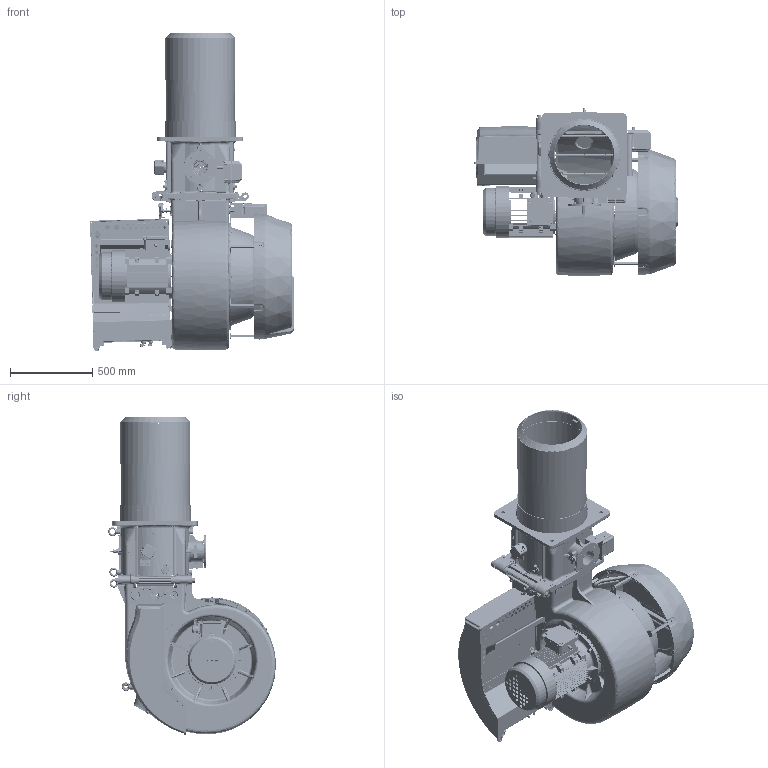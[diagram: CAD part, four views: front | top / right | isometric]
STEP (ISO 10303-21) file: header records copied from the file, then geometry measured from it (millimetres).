
FILE_DESCRIPTION (( 'STEP AP214' ), '1' );
FILE_NAME ('67420010p.STEP', '2018-04-06T07:54:56', ( '' ), ( '' ), 'SwSTEP 2.0', 'SolidWorks 2016', '' );
FILE_SCHEMA (( 'AUTOMOTIVE_DESIGN' ));
Length unit declared in the file: millimetre
Products named in the file (1): 67420010p
Bounding box: 1235.63 x 1016.55 x 1928.5 mm (x, y, z)
Surface area: 11942990.4 mm2 (no closed solid volume)
Topology: 0 solids, 544 shells, 3579 faces, 18513 edges, 14797 vertices
Faces by surface type: plane 1351, bspline 996, cylinder 958, cone 136, torus 123, sphere 15
Full cylindrical faces by diameter (mm): 3.3 x5, 4.2 x1, 4.917 x3, 5 x4, 5.2 x1, 5.5 x1, 6 x5, 7 x2, 8 x11, 8.3 x2, 8.5 x9, 9 x1, 9.5 x2, 10 x11, 10.2 x7, 10.5 x1, 11 x1, 12 x5, 13 x8, 13.449 x1, 13.462 x1, 14 x11, 14.5 x2, 15 x10, 15.2 x1, 16 x9, 16.8 x1, 17 x7, 18 x8, 19 x5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
Entity records: 375407 total; most frequent: CARTESIAN_POINT 235269, ORIENTED_EDGE 23505, DIRECTION 19046, EDGE_CURVE 18032, VERTEX_POINT 14682, VECTOR 7204, LINE 7204, B_SPLINE_CURVE_WITH_KNOTS 6963
